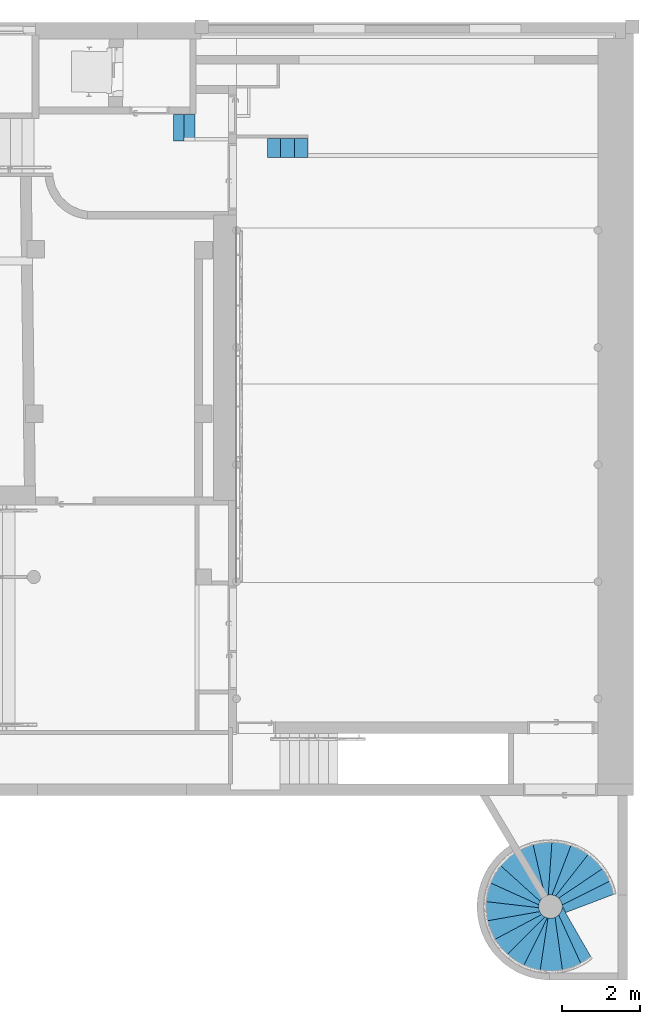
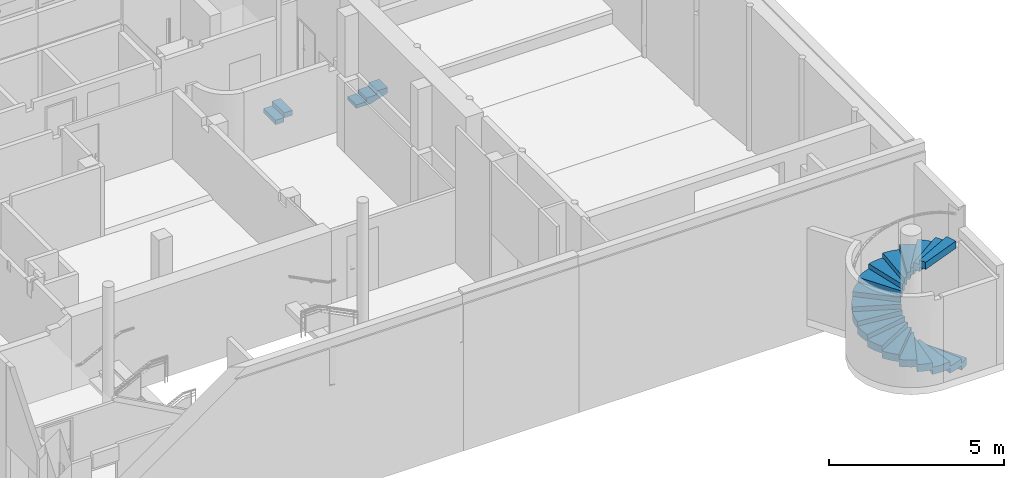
# One storey, part 8 of 39: 2 stairs, 1 stair flight, 1 element without a shape of its own.
"""IFC4 building model written with IfcOpenShell, lengths in metres."""

from ifc_helpers import new_model, entity, si_unit, converted_unit, derived_unit, direction, frame, origin, place, context, subcontext, project, spatial, indexed_curve, outline, extrude, polygons, type_object, element, aggregate, save


model = new_model("IFC4")

# Units and contexts
model_context = context("Model", 3, precision=1e-05, world=origin(), true_north=direction((6.12303176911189e-17, 1.0)))
body_context = subcontext(model_context, "Body", "Model", "MODEL_VIEW")
ifc_project = project(units=[si_unit("LENGTHUNIT", "METRE"), si_unit("AREAUNIT", "SQUARE_METRE"), si_unit("VOLUMEUNIT", "CUBIC_METRE"), converted_unit("PLANEANGLEUNIT", "DEGREE", entity("IfcRatioMeasure", 0.0174532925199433), si_unit("PLANEANGLEUNIT", "RADIAN"), dimensions=[0, 0, 0, 0, 0, 0, 0]), si_unit("MASSUNIT", "GRAM", prefix="KILO"), derived_unit("MASSDENSITYUNIT", [(si_unit("MASSUNIT", "GRAM", prefix="KILO"), 1), (si_unit("LENGTHUNIT", "METRE"), -3)]), derived_unit("MOMENTOFINERTIAUNIT", [(si_unit("LENGTHUNIT", "METRE"), 4)]), si_unit("TIMEUNIT", "SECOND"), si_unit("FREQUENCYUNIT", "HERTZ"), si_unit("THERMODYNAMICTEMPERATUREUNIT", "DEGREE_CELSIUS"), derived_unit("THERMALTRANSMITTANCEUNIT", [(si_unit("MASSUNIT", "GRAM", prefix="KILO"), 1), (si_unit("THERMODYNAMICTEMPERATUREUNIT", "KELVIN"), -1), (si_unit("TIMEUNIT", "SECOND"), -3)]), derived_unit("VOLUMETRICFLOWRATEUNIT", [(si_unit("LENGTHUNIT", "METRE"), 3), (si_unit("TIMEUNIT", "SECOND"), -1)]), si_unit("ELECTRICCURRENTUNIT", "AMPERE"), si_unit("ELECTRICVOLTAGEUNIT", "VOLT"), si_unit("POWERUNIT", "WATT"), si_unit("FORCEUNIT", "NEWTON", prefix="KILO"), si_unit("ILLUMINANCEUNIT", "LUX"), si_unit("LUMINOUSFLUXUNIT", "LUMEN"), si_unit("LUMINOUSINTENSITYUNIT", "CANDELA"), derived_unit("USERDEFINED", [(si_unit("MASSUNIT", "GRAM", prefix="KILO"), -1), (si_unit("LENGTHUNIT", "METRE"), -2), (si_unit("TIMEUNIT", "SECOND"), 3), (si_unit("LUMINOUSFLUXUNIT", "LUMEN"), 1)]), derived_unit("LINEARVELOCITYUNIT", [(si_unit("LENGTHUNIT", "METRE"), 1), (si_unit("TIMEUNIT", "SECOND"), -1)]), si_unit("PRESSUREUNIT", "PASCAL"), derived_unit("USERDEFINED", [(si_unit("LENGTHUNIT", "METRE"), -2), (si_unit("MASSUNIT", "GRAM", prefix="KILO"), 1), (si_unit("TIMEUNIT", "SECOND"), -2)]), derived_unit("LINEARFORCEUNIT", [(si_unit("MASSUNIT", "GRAM", prefix="KILO"), 1), (si_unit("LENGTHUNIT", "METRE"), 1), (si_unit("TIMEUNIT", "SECOND"), -2), (si_unit("LENGTHUNIT", "METRE"), -1)]), derived_unit("PLANARFORCEUNIT", [(si_unit("MASSUNIT", "GRAM", prefix="KILO"), 1), (si_unit("LENGTHUNIT", "METRE"), 1), (si_unit("TIMEUNIT", "SECOND"), -2), (si_unit("LENGTHUNIT", "METRE"), -2)])], contexts=[model_context])

# Site, building, storey
site_placement = place(None, origin())
site = spatial("IfcSite", under=ifc_project, at=site_placement, Name="Default", CompositionType="ELEMENT")
building_placement = place(site_placement, origin())
building = spatial("IfcBuilding", under=site, at=building_placement, Name="HOTEL CONSULAIRE BOULOGNE SUR MER", CompositionType="ELEMENT")
storey_placement = place(building_placement, frame((0.0, 0.0, -5.02343668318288)))
storey = spatial("IfcBuildingStorey", under=building, at=storey_placement, Name="SS3", CompositionType="ELEMENT", Elevation=-5.02343668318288)

# Stairs
stair_type_1 = type_object("IfcStairType", Name="Escalier coulé sur place:Monobloc 3", PredefinedType="STRAIGHT_RUN_STAIR")
stair_1_placement = place(storey_placement, frame((10.7463433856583, -12.8502768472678, 0.0)))
element("IfcStair", 1, at=stair_1_placement, inside=storey, type_object=stair_type_1, Name="Escalier coulé sur place:Escalier", ObjectType="Escalier coulé sur place:Monobloc 3", PredefinedType="STRAIGHT_RUN_STAIR", context=body_context, shape_type="Tessellation", body=[
    polygons([(0.277999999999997, 0.690228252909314, -0.493333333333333), (-2.16573425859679e-15, 0.690228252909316, -0.493333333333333), (-2.16573425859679e-15, 2.16573425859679e-15, -0.493333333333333), (0.277999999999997, 2.16573425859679e-15, -0.493333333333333), (0.277999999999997, 0.690228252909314, -0.506666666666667), (0.277999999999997, 0.690228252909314, -0.649999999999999), (-2.16573425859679e-15, 0.690228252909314, -0.649999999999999), (-2.16573425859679e-15, 2.16573425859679e-15, -0.649999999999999), (0.277999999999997, 2.16573425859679e-15, -0.649999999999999), (0.277999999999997, 2.16573425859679e-15, -0.506666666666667), (0.557300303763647, 0.690228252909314, -0.336666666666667), (0.277999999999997, 0.690228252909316, -0.336666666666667), (0.277999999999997, 2.16573425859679e-15, -0.336666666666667), (0.557300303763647, 0.0, -0.336666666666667), (0.557300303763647, 0.690228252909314, -0.506666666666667), (0.557300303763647, 2.16573425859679e-15, -0.506666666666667)], [[[4, 1, 2, 3]], [[14, 11, 12, 13]], [[2, 1, 12, 11, 15, 5, 6, 7]], [[3, 2, 7, 8]], [[13, 12, 1, 4]], [[4, 3, 8, 9, 10, 16, 14, 13]], [[11, 14, 16, 15]], [[5, 10, 9, 6]], [[8, 7, 6, 9]], [[10, 5, 15, 16]]], closed=True),
])
stair_type_2 = type_object("IfcStairType", Name="Escalier coulé sur place:Monobloc 3", PredefinedType="STRAIGHT_RUN_STAIR")
stair_2_placement = place(storey_placement, frame((13.1622688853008, -13.2703682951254, 0.0)))
element("IfcStair", 2, at=stair_2_placement, inside=storey, type_object=stair_type_2, Name="Escalier coulé sur place:Escalier", ObjectType="Escalier coulé sur place:Monobloc 3", PredefinedType="STRAIGHT_RUN_STAIR", context=body_context, shape_type="Tessellation", body=[
    polygons([(0.3325619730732, 0.486, -0.5475), (0.0, 0.486, -0.5475), (0.0, 4.33146851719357e-15, -0.5475), (0.3325619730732, 2.16573425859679e-15, -0.5475), (0.3325619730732, 0.486, -0.67), (0.0, 0.486, -0.67), (0.0, 4.33146851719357e-15, -0.67), (0.3325619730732, 2.16573425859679e-15, -0.67), (0.3325619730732, 0.486, -0.425000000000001), (0.3325619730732, 2.16573425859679e-15, -0.425000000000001), (0.361201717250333, 2.16573425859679e-15, -0.425000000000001), (0.686646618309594, 2.16573425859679e-15, -0.425000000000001), (0.686646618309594, 0.486, -0.425000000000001), (0.361201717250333, 0.486000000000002, -0.425000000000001), (0.686646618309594, 0.486, -0.604642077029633), (0.498175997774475, 0.486, -0.67), (0.361201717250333, 0.486, -0.67), (0.361201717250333, 2.16573425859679e-15, -0.67), (0.498175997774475, 2.16573425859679e-15, -0.669999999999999), (0.686646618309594, 0.0, -0.604642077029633), (1.0390608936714, 0.486, -0.302500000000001), (0.686646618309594, 0.486, -0.302500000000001), (0.686646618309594, 2.16573425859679e-15, -0.302500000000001), (1.0390608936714, 0.0, -0.302500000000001), (1.0390608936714, 0.486, -0.482431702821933), (1.0390608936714, 0.0, -0.482431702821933)], [[[4, 1, 2, 3]], [[12, 13, 14, 9, 10, 11]], [[24, 21, 22, 23]], [[2, 1, 9, 14, 13, 22, 21, 25, 15, 16, 17, 5, 6]], [[3, 2, 6, 7]], [[10, 9, 1, 4]], [[23, 22, 13, 12]], [[4, 3, 7, 8, 18, 19, 20, 26, 24, 23, 12, 11, 10]], [[21, 24, 26, 25]], [[6, 5, 17, 16, 19, 18, 8, 7]], [[20, 19, 16, 15, 25, 26]]], closed=True),
])

# Stair, stair flight
stair_type_3 = type_object("IfcStairType", Name="Escalier assemblé:Escalier assemblé", PredefinedType="CURVED_RUN_STAIR")
stair_3_placement = place(storey_placement, origin())
stair_3 = element("IfcStair", 3, at=stair_3_placement, inside=storey, type_object=stair_type_3, Name="Escalier assemblé:Escalier", ObjectType="Escalier assemblé:Escalier assemblé", PredefinedType="CURVED_RUN_STAIR")
stair_flight_type = type_object("IfcStairFlightType", Name="Volée non-monobloc:250x13", PredefinedType="NOTDEFINED")
stair_flight_placement = place(stair_3_placement, frame((18.7058247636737, -34.1617381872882, 0.0)))
stair_flight = element("IfcStairFlight", 4, at=stair_flight_placement, type_object=stair_flight_type, Name="Escalier assemblé:Escalier:461497 Run 1", ObjectType="Volée non-monobloc:250x13", PredefinedType="NOTDEFINED", context=body_context, shape_type="SweptSolid", body=[
    extrude(outline(indexed_curve([(0.206180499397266, -0.739378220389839), (0.233824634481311, -0.724332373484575), (0.261185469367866, -0.708777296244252), (0.288253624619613, -0.692718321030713), (0.315019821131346, -0.676160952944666), (0.341474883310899, -0.659110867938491), (0.367609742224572, -0.641573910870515), (0.393415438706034, -0.623556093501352), (0.418883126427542, -0.605063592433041), (0.444004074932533, -0.586102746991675), (0.468769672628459, -0.566680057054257), (-0.292860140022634, 0.757741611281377), (-0.294078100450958, 0.734429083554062), (-0.297106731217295, 0.711282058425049), (-0.30192765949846, 0.688440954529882), (-0.30851163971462, 0.666044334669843), (-0.316818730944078, 0.644228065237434), (-0.326798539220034, 0.623124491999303), (-0.338390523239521, 0.602861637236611), (-0.35152436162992, 0.583562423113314), (-0.366120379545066, 0.565343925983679), (-0.382090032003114, 0.548316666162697), (0.206180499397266, -0.739378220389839)], self_intersect=False)), frame((2.29406078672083, 0.940181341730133, -0.0826717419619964)), (0.0, 0.0, 1.0), 0.25),
    extrude(outline(indexed_curve([(-0.0463135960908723, -0.75592688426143), (0.00419950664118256, -0.745631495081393), (0.0543771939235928, -0.733809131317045), (0.104173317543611, -0.720470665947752), (0.153542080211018, -0.705628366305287), (0.202438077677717, -0.689295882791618), (0.25081634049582, -0.671488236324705), (0.298632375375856, -0.652221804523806), (0.345842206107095, -0.63151430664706), (0.392402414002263, -0.609384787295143), (0.438270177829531, -0.585853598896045), (-0.150000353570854, 0.701841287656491), (-0.158082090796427, 0.694161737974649), (-0.166443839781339, 0.686788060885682), (-0.175074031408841, 0.67973045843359), (-0.183960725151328, 0.672998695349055), (-0.193091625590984, 0.666602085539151), (-0.202454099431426, 0.660549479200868), (-0.212035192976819, 0.654849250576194), (-0.221821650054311, 0.649509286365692), (-0.231799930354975, 0.644536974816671), (-0.241956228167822, 0.639939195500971), (-0.0463135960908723, -0.75592688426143)], self_intersect=False)), frame((2.06197110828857, 0.786656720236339, 0.0846565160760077)), (0.0, 0.0, 1.0), 0.25),
    extrude(outline(indexed_curve([(-0.294374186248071, -0.699371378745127), (-0.236332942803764, -0.707655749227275), (-0.178040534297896, -0.713933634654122), (-0.119566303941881, -0.718197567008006), (-0.0609798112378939, -0.720442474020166), (-0.00235074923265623, -0.720665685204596), (0.0562511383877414, -0.718866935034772), (0.114756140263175, -0.71504836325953), (0.173094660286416, -0.709214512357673), (0.231197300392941, -0.701372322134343), (0.288994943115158, -0.691531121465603), (0.0933523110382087, 0.704334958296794), (0.0761334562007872, 0.697544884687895), (0.0585283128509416, 0.691830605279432), (0.0406040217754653, 0.687213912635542), (0.0224289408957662, 0.683712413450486), (0.00407238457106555, 0.681339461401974), (-0.0143956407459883, 0.680104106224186), (-0.0329047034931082, 0.680011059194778), (-0.0513842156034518, 0.681060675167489), (-0.0697637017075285, 0.6832489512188), (-0.0879730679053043, 0.686567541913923), (-0.294374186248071, -0.699371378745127)], self_intersect=False)), frame((1.72666256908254, 0.722260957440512, 0.251984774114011)), (0.0, 0.0, 1.0), 0.25),
    extrude(outline(indexed_curve([(-0.425362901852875, -0.595589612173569), (-0.383682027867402, -0.613873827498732), (-0.341526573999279, -0.631035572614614), (-0.298926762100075, -0.647062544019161), (-0.255913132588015, -0.661943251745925), (-0.212516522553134, -0.67566702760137), (-0.168768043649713, -0.688224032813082), (-0.124699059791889, -0.699605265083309), (-0.0803411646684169, -0.709802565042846), (-0.0357261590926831, -0.718808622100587), (0.00911397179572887, -0.726616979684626), (0.215515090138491, 0.659321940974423), (0.214029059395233, 0.659644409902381), (0.212544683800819, 0.659974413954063), (0.21106200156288, 0.660311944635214), (0.209581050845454, 0.660656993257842), (0.208101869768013, 0.661009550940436), (0.206624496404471, 0.661369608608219), (0.205148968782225, 0.661737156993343), (0.203675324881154, 0.662112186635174), (0.202203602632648, 0.662494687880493), (0.200733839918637, 0.662884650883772), (-0.425362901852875, -0.595589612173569)], self_intersect=False)), frame((1.42317441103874, 0.749506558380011, 0.419313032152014)), (0.0, 0.0, 1.0), 0.25),
    extrude(outline(indexed_curve([(-0.623219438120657, -0.42198352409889), (-0.583993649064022, -0.456236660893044), (-0.543737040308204, -0.489272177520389), (-0.502487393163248, -0.521059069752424), (-0.46028342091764, -0.55156750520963), (-0.417164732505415, -0.580768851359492), (-0.373171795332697, -0.608635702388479), (-0.328345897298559, -0.635141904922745), (-0.28272910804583, -0.660262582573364), (-0.236364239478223, -0.683974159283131), (-0.189294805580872, -0.706254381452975), (0.436801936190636, 0.552219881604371), (0.43047579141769, 0.553990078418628), (0.424189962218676, 0.555898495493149), (0.417947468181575, 0.557944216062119), (0.411751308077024, 0.560126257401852), (0.405604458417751, 0.562443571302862), (0.399509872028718, 0.564895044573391), (0.393470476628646, 0.567479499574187), (0.387489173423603, 0.570195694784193), (0.381568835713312, 0.573042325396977), (0.37571230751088, 0.576018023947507), (-0.623219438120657, -0.42198352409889)], self_intersect=False)), frame((1.18710631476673, 0.860171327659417, 0.586641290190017)), (0.0, 0.0, 1.0), 0.25),
    extrude(outline(indexed_curve([(-0.724431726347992, -0.213992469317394), (-0.697377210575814, -0.25842803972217), (-0.668975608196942, -0.302014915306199), (-0.63925352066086, -0.344712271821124), (-0.608238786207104, -0.386480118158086), (-0.575960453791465, -0.42727933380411), (-0.542448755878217, -0.467071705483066), (-0.50773508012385, -0.50581996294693), (-0.471851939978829, -0.543487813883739), (-0.43483294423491, -0.580039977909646), (-0.396712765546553, -0.615442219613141), (0.602218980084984, 0.382559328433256), (0.592929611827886, 0.387618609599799), (0.583824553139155, 0.393002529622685), (0.574915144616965, 0.398704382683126), (0.566212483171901, 0.404717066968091), (0.557727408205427, 0.411033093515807), (0.549470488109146, 0.417644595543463), (0.541452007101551, 0.424543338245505), (0.533681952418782, 0.431720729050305), (0.526170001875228, 0.439167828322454), (0.518925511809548, 0.446875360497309), (-0.724431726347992, -0.213992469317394)], self_intersect=False)), frame((0.960599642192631, 1.05363002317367, 0.753969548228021)), (0.0, 0.0, 1.0), 0.25),
    extrude(outline(indexed_curve([(-0.75444180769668, 0.0185898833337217), (-0.742075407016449, -0.0328399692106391), (-0.728114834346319, -0.0838601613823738), (-0.712573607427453, -0.134421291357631), (-0.695466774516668, -0.184474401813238), (-0.67681089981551, -0.233971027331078), (-0.656624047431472, -0.282863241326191), (-0.634925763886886, -0.331103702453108), (-0.611737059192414, -0.378645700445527), (-0.587080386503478, -0.425443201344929), (-0.560979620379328, -0.471450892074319), (0.682377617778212, 0.189416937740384), (0.676477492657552, 0.19611835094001), (0.670779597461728, 0.202992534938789), (0.665288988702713, 0.210033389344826), (0.660010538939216, 0.217234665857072), (0.654948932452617, 0.224589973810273), (0.650108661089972, 0.232092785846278), (0.645494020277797, 0.239736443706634), (0.641109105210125, 0.247514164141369), (0.636957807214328, 0.255419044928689), (0.633043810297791, 0.263444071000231), (-0.75444180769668, 0.0185898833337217)], self_intersect=False)), frame((0.797147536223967, 1.31108844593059, 0.921297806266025)), (0.0, 0.0, 1.0), 0.25),
    extrude(outline(indexed_curve([(-0.713833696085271, 0.23199308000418), (-0.717088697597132, 0.181206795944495), (-0.718821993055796, 0.130345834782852), (-0.719032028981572, 0.0794557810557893), (-0.717718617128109, 0.0285822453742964), (-0.71488293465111, -0.0222291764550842), (-0.710527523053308, -0.0729329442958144), (-0.704656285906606, -0.123483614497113), (-0.697274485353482, -0.173835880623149), (-0.688388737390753, -0.223944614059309), (-0.678007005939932, -0.273764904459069), (0.709478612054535, -0.0289107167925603), (0.705233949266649, -0.019445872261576), (0.701319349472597, -0.0098398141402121), (0.69773950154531, -0.00010404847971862), (0.694498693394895, 0.00974976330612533), (0.691600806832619, 0.0197098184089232), (0.689049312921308, 0.0297641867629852), (0.686847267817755, 0.0399008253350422), (0.684997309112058, 0.0501075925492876), (0.683501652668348, 0.0603722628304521), (0.682362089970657, 0.0706825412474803), (-0.713833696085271, 0.23199308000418)], self_intersect=False)), frame((0.720712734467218, 1.60344323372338, 1.08862606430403)), (0.0, 0.0, 1.0), 0.25),
    extrude(outline(indexed_curve([(-0.745996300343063, 0.471486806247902), (-0.764077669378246, 0.423929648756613), (-0.780727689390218, 0.375852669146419), (-0.795931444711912, 0.327298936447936), (-0.809675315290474, 0.278311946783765), (-0.821946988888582, 0.228935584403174), (-0.832735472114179, 0.179214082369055), (-0.842031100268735, 0.129191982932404), (-0.849825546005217, 0.0789140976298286), (-0.856111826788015, 0.0284254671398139), (-0.86088431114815, -0.0222286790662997), (0.535311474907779, -0.183539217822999), (0.53506671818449, -0.180769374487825), (0.5348476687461, -0.177997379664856), (0.534654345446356, -0.175223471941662), (0.534486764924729, -0.172447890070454), (0.534344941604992, -0.169670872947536), (0.534228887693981, -0.16689265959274), (0.534138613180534, -0.164113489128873), (0.534074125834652, -0.161333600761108), (0.534035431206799, -0.158553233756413), (0.534022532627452, -0.155772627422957), (0.534057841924, -0.151172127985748), (0.534163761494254, -0.146572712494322), (0.534340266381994, -0.141975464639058), (0.53458731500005, -0.137381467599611), (0.534904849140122, -0.1327918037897), (0.535292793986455, -0.128207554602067), (0.535751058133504, -0.123629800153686), (0.536279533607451, -0.119059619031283), (0.536878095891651, -0.114498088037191), (0.537546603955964, -0.109946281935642), (-0.745996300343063, 0.471486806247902)], self_intersect=False)), frame((0.867763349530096, 1.85766499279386, 1.25595432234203)), (0.0, 0.0, 1.0), 0.25),
    extrude(outline(indexed_curve([(-0.448335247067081, 0.607602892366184), (-0.481348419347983, 0.56626850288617), (-0.513059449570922, 0.523926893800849), (-0.543437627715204, 0.480619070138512), (-0.572453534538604, 0.436386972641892), (-0.600079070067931, 0.3912734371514), (-0.626287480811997, 0.345322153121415), (-0.651053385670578, 0.298577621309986), (-0.674352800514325, 0.251085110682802), (-0.696163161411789, 0.202890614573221), (-0.716463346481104, 0.154040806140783), (0.567079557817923, -0.427392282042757), (0.568745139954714, -0.417685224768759), (0.570728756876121, -0.408038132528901), (0.573028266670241, -0.398461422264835), (0.575641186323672, -0.388965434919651), (0.578564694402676, -0.379560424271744), (0.581795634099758, -0.370256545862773), (0.585330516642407, -0.361063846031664), (0.589165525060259, -0.351992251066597), (0.593296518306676, -0.343051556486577), (0.597719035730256, -0.334251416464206), (-0.448335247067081, 0.607602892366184)], self_intersect=False)), frame((0.838230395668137, 2.17511099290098, 1.42328258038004)), (0.0, 0.0, 1.0), 0.25),
    extrude(outline(indexed_curve([(-0.253148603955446, 0.707063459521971), (-0.295236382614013, 0.678460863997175), (-0.336449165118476, 0.648611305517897), (-0.376750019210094, 0.617541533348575), (-0.416102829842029, 0.585279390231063), (-0.454472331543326, 0.551853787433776), (-0.491824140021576, 0.51729467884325), (-0.528124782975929, 0.481633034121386), (-0.563341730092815, 0.444900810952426), (-0.597443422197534, 0.407130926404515), (-0.63039929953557, 0.368357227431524), (0.415654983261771, -0.573497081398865), (0.419894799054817, -0.565679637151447), (0.424364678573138, -0.557991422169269), (0.429060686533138, -0.550439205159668), (0.433978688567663, -0.543029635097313), (0.439114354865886, -0.535769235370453), (0.44446316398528, -0.528664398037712), (0.450020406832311, -0.52172137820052), (0.455781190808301, -0.514946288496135), (0.461740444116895, -0.508345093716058), (0.467892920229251, -0.501923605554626), (-0.253148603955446, 0.707063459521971)], self_intersect=False)), frame((1.02029444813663, 2.41435665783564, 1.59061083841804)), (0.0, 0.0, 1.0), 0.25),
    extrude(outline(indexed_curve([(-0.020018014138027, 0.753956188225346), (-0.0706632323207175, 0.739017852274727), (-0.120820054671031, 0.722513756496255), (-0.170440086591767, 0.704459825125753), (-0.219475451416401, 0.684873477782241), (-0.267878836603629, 0.663773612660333), (-0.315603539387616, 0.641180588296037), (-0.362603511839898, 0.617116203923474), (-0.408833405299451, 0.591603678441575), (-0.454248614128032, 0.56466762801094), (-0.498805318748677, 0.536334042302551), (0.222236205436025, -0.672653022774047), (0.228860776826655, -0.666145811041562), (0.235683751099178, -0.659846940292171), (0.242698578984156, -0.653762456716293), (0.249898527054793, -0.647898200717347), (0.257276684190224, -0.64225980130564), (0.264825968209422, -0.636852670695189), (0.272539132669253, -0.631681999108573), (0.280408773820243, -0.626752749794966), (0.288427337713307, -0.622069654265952), (0.296587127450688, -0.617637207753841), (-0.020018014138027, 0.753956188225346)], self_intersect=False)), frame((1.26595116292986, 2.58508607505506, 1.75793909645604)), (0.0, 0.0, 1.0), 0.25),
    extrude(outline(indexed_curve([(0.194015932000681, 0.724854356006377), (0.143736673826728, 0.72534304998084), (0.0934649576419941, 0.724344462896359), (0.0432447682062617, 0.721859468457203), (-0.00687995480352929, 0.717890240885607), (-0.0568653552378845, 0.712440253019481), (-0.10666769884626, 0.705514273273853), (-0.156243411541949, 0.6971183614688), (-0.205549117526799, 0.687259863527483), (-0.254541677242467, 0.675947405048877), (-0.30317822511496, 0.663190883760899), (0.0134269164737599, -0.708402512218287), (0.0212375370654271, -0.704459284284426), (0.0291599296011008, -0.700745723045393), (0.0371873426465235, -0.697264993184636), (0.0453129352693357, -0.694020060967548), (0.0535297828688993, -0.691013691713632), (0.0618308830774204, -0.68824844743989), (0.0702091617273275, -0.685726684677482), (0.0786574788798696, -0.683450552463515), (0.0871686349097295, -0.681421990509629), (0.095735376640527, -0.679642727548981), (0.194015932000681, 0.724854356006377)], self_intersect=False)), frame((1.54911137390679, 2.67585137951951, 1.92526735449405)), (0.0, 0.0, 1.0), 0.25),
    extrude(outline(indexed_curve([(0.40175127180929, 0.63490012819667), (0.352996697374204, 0.650554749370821), (0.303792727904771, 0.664733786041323), (0.254184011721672, 0.677424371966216), (0.204215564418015, 0.688614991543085), (0.1539327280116, 0.698295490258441), (0.103381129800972, 0.70645708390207), (0.0526066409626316, 0.713092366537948), (0.00165533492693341, 0.718195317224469), (-0.049426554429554, 0.721761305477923), (-0.100592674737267, 0.723787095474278), (-0.198873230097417, -0.680709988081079), (-0.189315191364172, -0.679029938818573), (-0.179707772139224, -0.677660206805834), (-0.170061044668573, -0.676602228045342), (-0.160385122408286, -0.675857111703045), (-0.150690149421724, -0.675425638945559), (-0.140986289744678, -0.67530826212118), (-0.131283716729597, -0.675505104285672), (-0.121592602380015, -0.676015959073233), (-0.111923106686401, -0.67684029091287), (-0.102285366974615, -0.677977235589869), (0.40175127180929, 0.63490012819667)], self_intersect=False)), frame((1.84371998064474, 2.67691864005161, 2.09259561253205)), (0.0, 0.0, 1.0), 0.25),
    extrude(outline(indexed_curve([(0.568781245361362, 0.488148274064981), (0.526893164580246, 0.517531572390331), (0.484139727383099, 0.54564087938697), (0.440559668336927, 0.57245072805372), (0.396192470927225, 0.597936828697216), (0.351078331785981, 0.622076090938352), (0.305258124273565, 0.64484664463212), (0.25877336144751, 0.666227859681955), (0.21166615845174, 0.686200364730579), (0.163979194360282, 0.704746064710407), (0.115755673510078, 0.72184815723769), (-0.388280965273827, -0.59102920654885), (-0.378730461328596, -0.592469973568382), (-0.369231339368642, -0.594217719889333), (-0.359793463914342, -0.596270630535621), (-0.35042663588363, -0.598626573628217), (-0.341140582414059, -0.601283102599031), (-0.331944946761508, -0.604237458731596), (-0.322849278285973, -0.607486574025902), (-0.31386302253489, -0.611027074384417), (-0.304995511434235, -0.614855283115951), (-0.296255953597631, -0.618967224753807), (0.568781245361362, 0.488148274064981)], self_intersect=False)), frame((2.12971557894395, 2.58997061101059, 2.25992387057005)), (0.0, 0.0, 1.0), 0.25),
    extrude(outline(indexed_curve([(0.69582346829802, 0.285429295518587), (0.66369141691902, 0.328090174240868), (0.630235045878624, 0.369720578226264), (0.595487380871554, 0.410279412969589), (0.559482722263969, 0.449726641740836), (0.522256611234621, 0.488023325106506), (0.483845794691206, 0.525131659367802), (0.444288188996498, 0.561015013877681), (0.403622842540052, 0.595637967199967), (0.361889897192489, 0.628966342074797), (0.319130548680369, 0.660967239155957), (-0.54590665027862, -0.446148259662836), (-0.537499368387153, -0.450436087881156), (-0.529231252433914, -0.454986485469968), (-0.521110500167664, -0.459794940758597), (-0.513145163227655, -0.464856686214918), (-0.505343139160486, -0.470166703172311), (-0.497712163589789, -0.475719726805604), (-0.490259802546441, -0.481510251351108), (-0.482993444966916, -0.487532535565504), (-0.475920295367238, -0.493780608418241), (-0.469047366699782, -0.500248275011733), (0.69582346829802, 0.285429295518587)], self_intersect=False)), frame((2.37936627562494, 2.41715164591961, 2.42725212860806)), (0.0, 0.0, 1.0), 0.25),
    extrude(outline(indexed_curve([(0.701392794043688, 0.189143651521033), (0.68597289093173, 0.223942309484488), (0.66977772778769, 0.258386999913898), (0.652815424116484, 0.29246045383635), (0.63509448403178, 0.326145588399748), (0.616623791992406, 0.359425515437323), (0.597412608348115, 0.392283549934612), (0.577470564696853, 0.424703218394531), (0.556807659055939, 0.456668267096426), (0.535434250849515, 0.488162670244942), (0.513361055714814, 0.519170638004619), (-0.651509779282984, -0.266506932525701), (-0.637640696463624, -0.280905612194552), (-0.624762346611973, -0.296196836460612), (-0.612932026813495, -0.31231257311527), (-0.602202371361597, -0.329181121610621), (-0.592621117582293, -0.346727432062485), (-0.584230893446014, -0.364873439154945), (-0.577069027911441, -0.383538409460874), (-0.571167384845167, -0.402639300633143), (-0.566552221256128, -0.422091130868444), (-0.563244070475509, -0.441807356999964), (0.701392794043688, 0.189143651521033)], self_intersect=False)), frame((2.56182868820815, 2.18341030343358, 2.59458038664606)), (0.0, 0.0, 1.0), 0.25),
    extrude(outline(indexed_curve([(0.687522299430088, 0.108660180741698), (0.680206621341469, 0.143530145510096), (0.672161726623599, 0.178239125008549), (0.663391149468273, 0.212771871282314), (0.653898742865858, 0.247113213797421), (0.643688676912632, 0.281248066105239), (0.632765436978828, 0.315161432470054), (0.621133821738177, 0.34883841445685), (0.608798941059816, 0.382264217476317), (0.595766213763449, 0.415424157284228), (0.58204136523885, 0.448303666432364), (-0.682595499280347, -0.182647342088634), (-0.586968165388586, -0.374316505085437), (0.687522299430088, 0.108660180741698)], self_intersect=False)), frame((2.68118011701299, 1.92425028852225, 2.76190864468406)), (0.0, 0.0, 1.0), 0.25),
])
aggregate(stair_3, [stair_flight])

save(model, "model.ifc")
